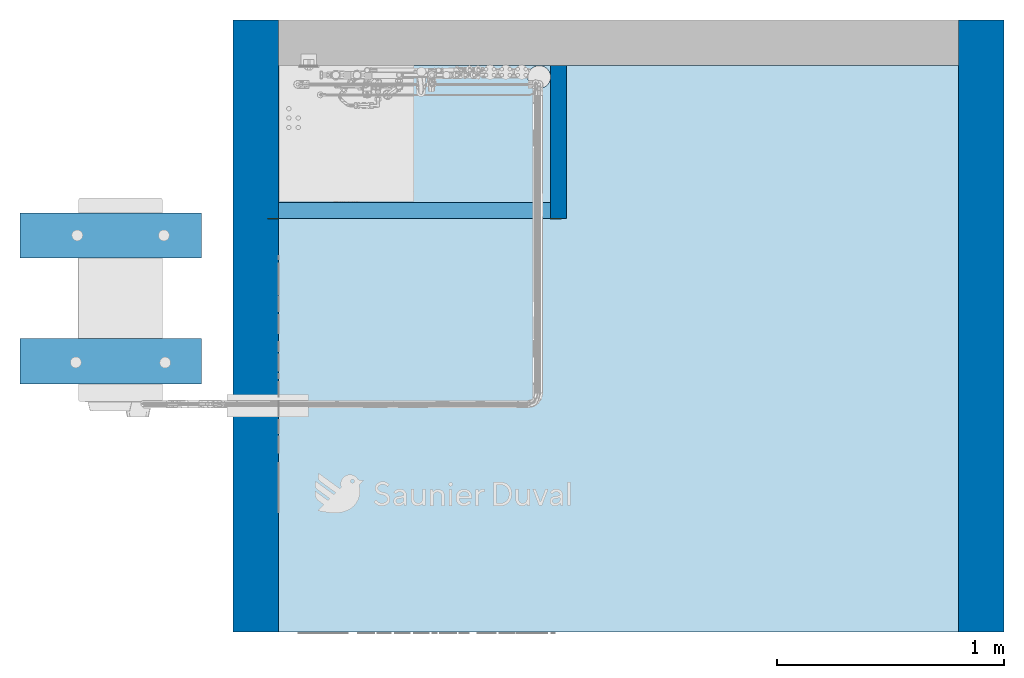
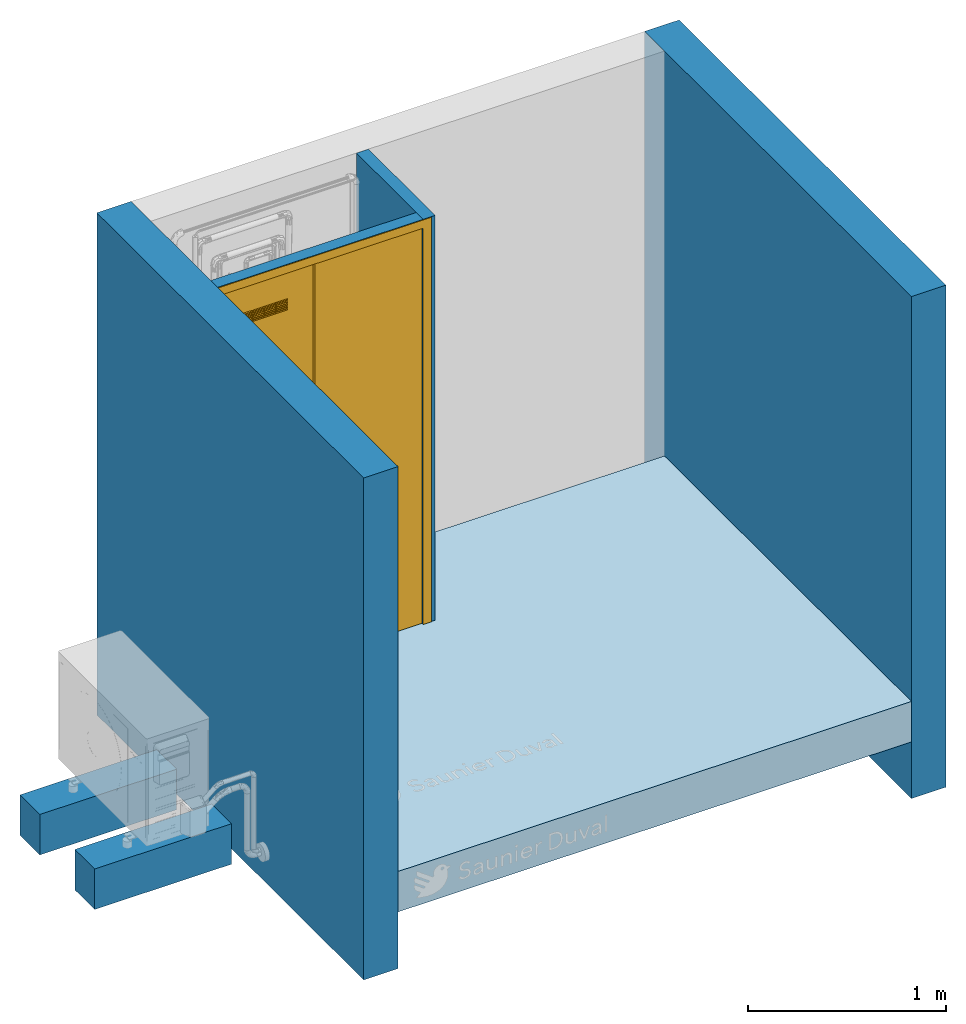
# One storey, part 1 of 32: 4 walls, 3 slabs, 1 door, 4 openings.
"""IFC2X3 building model written with IfcOpenShell, lengths in metres."""

from ifc_helpers import new_model, entity, si_unit, converted_unit, derived_unit, direction, frame, frame_2d, origin, origin_2d_with_axis, place, context, subcontext, project, spatial, polyline, rectangle, circle, outline, extrude, source, transform, mapped, material, material_list, layer, layer_set, layer_usage, type_object, type_shapes, element, fill, save


model = new_model("IFC2X3")

# Units and contexts
model_context = context("Model", 3, precision=1e-05, world=origin(), true_north=direction((6.123031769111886e-17, 1.0)))
body_context = subcontext(model_context, "Body", "Model", "MODEL_VIEW")
ifc_project = project(units=[si_unit("LENGTHUNIT", "METRE"), si_unit("AREAUNIT", "SQUARE_METRE"), si_unit("VOLUMEUNIT", "CUBIC_METRE"), converted_unit("PLANEANGLEUNIT", "DEGREE", entity("IfcPlaneAngleMeasure", 0.017453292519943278), si_unit("PLANEANGLEUNIT", "RADIAN"), dimensions=[0, 0, 0, 0, 0, 0, 0]), si_unit("MASSUNIT", "GRAM", prefix="KILO"), derived_unit("MASSDENSITYUNIT", [(si_unit("MASSUNIT", "GRAM", prefix="KILO"), 1), (si_unit("LENGTHUNIT", "METRE"), -3)]), derived_unit("IONCONCENTRATIONUNIT", [(si_unit("MASSUNIT", "GRAM", prefix="KILO"), 1), (si_unit("LENGTHUNIT", "METRE"), -3)]), derived_unit("MOMENTOFINERTIAUNIT", [(si_unit("LENGTHUNIT", "METRE"), 4)]), si_unit("TIMEUNIT", "SECOND"), si_unit("FREQUENCYUNIT", "HERTZ"), si_unit("THERMODYNAMICTEMPERATUREUNIT", "DEGREE_CELSIUS"), derived_unit("THERMALTRANSMITTANCEUNIT", [(si_unit("MASSUNIT", "GRAM", prefix="KILO"), 1), (si_unit("THERMODYNAMICTEMPERATUREUNIT", "KELVIN"), -1), (si_unit("TIMEUNIT", "SECOND"), -3)]), derived_unit("THERMALCONDUCTANCEUNIT", [(si_unit("MASSUNIT", "GRAM", prefix="KILO"), 1), (si_unit("THERMODYNAMICTEMPERATUREUNIT", "KELVIN"), -1), (si_unit("TIMEUNIT", "SECOND"), -3), (si_unit("LENGTHUNIT", "METRE"), 1)]), derived_unit("VOLUMETRICFLOWRATEUNIT", [(si_unit("LENGTHUNIT", "METRE", prefix="DECI"), 3), (si_unit("TIMEUNIT", "SECOND"), -1)]), derived_unit("MASSFLOWRATEUNIT", [(si_unit("MASSUNIT", "GRAM", prefix="KILO"), 1), (si_unit("TIMEUNIT", "SECOND"), -1)]), derived_unit("ROTATIONALFREQUENCYUNIT", [(si_unit("TIMEUNIT", "SECOND"), -1)]), si_unit("ELECTRICCURRENTUNIT", "AMPERE"), si_unit("ELECTRICVOLTAGEUNIT", "VOLT"), si_unit("POWERUNIT", "WATT"), si_unit("FORCEUNIT", "NEWTON", prefix="KILO"), si_unit("ILLUMINANCEUNIT", "LUX"), si_unit("LUMINOUSFLUXUNIT", "LUMEN"), si_unit("LUMINOUSINTENSITYUNIT", "CANDELA"), si_unit("ENERGYUNIT", "JOULE"), derived_unit("USERDEFINED", [(si_unit("MASSUNIT", "GRAM", prefix="KILO"), -1), (si_unit("LENGTHUNIT", "METRE"), -2), (si_unit("TIMEUNIT", "SECOND"), 3), (si_unit("LUMINOUSFLUXUNIT", "LUMEN"), 1)]), derived_unit("USERDEFINED", [(si_unit("MASSUNIT", "GRAM", prefix="KILO"), 1), (si_unit("TIMEUNIT", "SECOND"), -3), (si_unit("LENGTHUNIT", "METRE"), 3), (si_unit("ELECTRICCURRENTUNIT", "AMPERE"), -2)]), derived_unit("SOUNDPOWERUNIT", [(si_unit("MASSUNIT", "GRAM", prefix="KILO"), 1), (si_unit("TIMEUNIT", "SECOND"), -3), (si_unit("LENGTHUNIT", "METRE"), 2)]), derived_unit("SOUNDPRESSUREUNIT", [(si_unit("MASSUNIT", "GRAM", prefix="KILO"), 1), (si_unit("LENGTHUNIT", "METRE"), -1), (si_unit("TIMEUNIT", "SECOND"), -2)]), derived_unit("LINEARVELOCITYUNIT", [(si_unit("LENGTHUNIT", "METRE"), 1), (si_unit("TIMEUNIT", "SECOND"), -1)]), si_unit("PRESSUREUNIT", "PASCAL"), derived_unit("USERDEFINED", [(si_unit("MASSUNIT", "GRAM", prefix="KILO"), 1), (si_unit("LENGTHUNIT", "METRE"), -2), (si_unit("TIMEUNIT", "SECOND"), -2)]), derived_unit("LINEARFORCEUNIT", [(si_unit("MASSUNIT", "GRAM", prefix="KILO"), 1), (si_unit("TIMEUNIT", "SECOND"), -2)]), derived_unit("PLANARFORCEUNIT", [(si_unit("MASSUNIT", "GRAM", prefix="KILO"), 1), (si_unit("LENGTHUNIT", "METRE"), -1), (si_unit("TIMEUNIT", "SECOND"), -2)]), derived_unit("SPECIFICHEATCAPACITYUNIT", [(si_unit("THERMODYNAMICTEMPERATUREUNIT", "KELVIN"), -1), (si_unit("LENGTHUNIT", "METRE"), 2), (si_unit("TIMEUNIT", "SECOND"), -2)]), derived_unit("HEATFLUXDENSITYUNIT", [(si_unit("MASSUNIT", "GRAM", prefix="KILO"), 1), (si_unit("TIMEUNIT", "SECOND"), -3)]), derived_unit("HEATINGVALUEUNIT", [(si_unit("LENGTHUNIT", "METRE"), 2), (si_unit("TIMEUNIT", "SECOND"), -2)]), derived_unit("VAPORPERMEABILITYUNIT", [(si_unit("LENGTHUNIT", "METRE"), -1), (si_unit("TIMEUNIT", "SECOND"), 1)]), derived_unit("DYNAMICVISCOSITYUNIT", [(si_unit("MASSUNIT", "GRAM", prefix="KILO"), 1), (si_unit("TIMEUNIT", "SECOND"), -1), (si_unit("LENGTHUNIT", "METRE"), -1)]), derived_unit("THERMALEXPANSIONCOEFFICIENTUNIT", [(si_unit("THERMODYNAMICTEMPERATUREUNIT", "KELVIN"), -1)]), derived_unit("MODULUSOFELASTICITYUNIT", [(si_unit("MASSUNIT", "GRAM", prefix="KILO"), 1), (si_unit("LENGTHUNIT", "METRE"), -1), (si_unit("TIMEUNIT", "SECOND"), -2)]), derived_unit("ISOTHERMALMOISTURECAPACITYUNIT", [(si_unit("MASSUNIT", "GRAM", prefix="KILO"), -1), (si_unit("LENGTHUNIT", "METRE"), 3)]), derived_unit("MOISTUREDIFFUSIVITYUNIT", [(si_unit("TIMEUNIT", "SECOND"), -1), (si_unit("LENGTHUNIT", "METRE"), 2)]), derived_unit("MASSPERLENGTHUNIT", [(si_unit("MASSUNIT", "GRAM", prefix="KILO"), 1), (si_unit("LENGTHUNIT", "METRE"), -1)]), derived_unit("THERMALRESISTANCEUNIT", [(si_unit("MASSUNIT", "GRAM", prefix="KILO"), -1), (si_unit("TIMEUNIT", "SECOND"), 3), (si_unit("THERMODYNAMICTEMPERATUREUNIT", "KELVIN"), 1)]), derived_unit("ACCELERATIONUNIT", [(si_unit("LENGTHUNIT", "METRE"), 1), (si_unit("TIMEUNIT", "SECOND"), -2)]), derived_unit("ANGULARVELOCITYUNIT", [(si_unit("TIMEUNIT", "SECOND"), -1), (si_unit("PLANEANGLEUNIT", "RADIAN"), 1)]), derived_unit("LINEARSTIFFNESSUNIT", [(si_unit("MASSUNIT", "GRAM", prefix="KILO"), 1), (si_unit("TIMEUNIT", "SECOND"), -2)]), derived_unit("WARPINGCONSTANTUNIT", [(si_unit("LENGTHUNIT", "METRE"), 6)]), derived_unit("LINEARMOMENTUNIT", [(si_unit("MASSUNIT", "GRAM", prefix="KILO"), 1), (si_unit("LENGTHUNIT", "METRE"), 1), (si_unit("TIMEUNIT", "SECOND"), -2)]), derived_unit("TORQUEUNIT", [(si_unit("MASSUNIT", "GRAM", prefix="KILO"), 1), (si_unit("LENGTHUNIT", "METRE"), 2), (si_unit("TIMEUNIT", "SECOND"), -2)])], contexts=[model_context])

# Site, building, storey
site_placement = place(None, origin())
site = spatial("IfcSite", under=ifc_project, at=site_placement, Name="Default", CompositionType="ELEMENT")
building_placement = place(site_placement, origin())
building = spatial("IfcBuilding", under=site, at=building_placement, CompositionType="ELEMENT")
storey_placement = place(building_placement, origin())
storey = spatial("IfcBuildingStorey", under=building, at=storey_placement, Name="Niveau 0", CompositionType="ELEMENT", Elevation=-1.949160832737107e-14)

# Slab, opening
ifc_material_1 = material(Name="Maçonnerie - Béton")
ifc_layer_1 = layer(ifc_material_1, 0.24999999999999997)
ifc_layer_set_1 = layer_set([ifc_layer_1], Name="Sol:Dalle en béton - 250 mm")
ifc_layer_usage_1 = layer_usage(ifc_layer_set_1, "AXIS3", "POSITIVE", 0.0)
slab_type = type_object("IfcSlabType", Name="Sol:Dalle en béton - 250 mm", PredefinedType="FLOOR", material=ifc_layer_set_1)
slab_1_placement = place(storey_placement, frame((-14.709553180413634, 0.36902647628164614, -0.25)))
slab_1 = element("IfcSlab", 1, at=slab_1_placement, inside=storey, type_object=slab_type, material=ifc_layer_usage_1, Name="Sol:Dalle en béton - 250 mm", ObjectType="Sol:Dalle en béton - 250 mm", PredefinedType="FLOOR", context=body_context, shape_type="SweptSolid", body=[
    extrude(rectangle(XDim=2.4994999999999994, YDim=2.998999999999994, at=frame_2d((0.0, 0.0), x_axis=(0.0, 1.0))), frame((1.4995000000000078, 1.249750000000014, 0.24999999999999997), z_axis=(0.0, 0.0, -1.0), x_axis=(-1.0, 0.0, 0.0)), (0.0, 0.0, 1.0), 0.24999999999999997),
])
opening_1_placement = place(slab_1_placement, origin())
element("IfcOpeningElement", 2, at=opening_1_placement, cuts=slab_1, Name="Sol:Dalle en béton - 250 mm:634", ObjectType="Opening", context=body_context, shape_type="SweptSolid", body=[
    extrude(circle(Radius=0.04999999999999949, at=origin_2d_with_axis()), frame((1.150000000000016, 2.4489238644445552, 0.24999999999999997), z_axis=(0.0, 0.0, -1.0), x_axis=(-1.0, 0.0, 0.0)), (0.0, 0.0, 1.0), 0.24999999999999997),
])

# Slabs
ifc_layer_usage_2 = layer_usage(ifc_layer_set_1, "AXIS3", "POSITIVE", 0.0)
slab_2_placement = place(storey_placement, origin())
element("IfcSlab", 3, at=slab_2_placement, inside=storey, type_object=slab_type, material=ifc_layer_usage_2, Name="Sol:Dalle en béton - 250 mm", ObjectType="Sol:Dalle en béton - 250 mm", PredefinedType="FLOOR", context=body_context, shape_type="SweptSolid", body=[
    extrude(rectangle(XDim=0.19999999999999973, YDim=0.8, at=frame_2d((-1.3877787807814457e-16, 0.0), x_axis=(1.0, 0.0))), frame((-15.449897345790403, 2.1192559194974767, -0.24999999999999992), z_axis=(0.0, 0.0, -1.0), x_axis=(0.0, 1.0, 0.0)), (0.0, 0.0, 1.0), 0.24999999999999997),
])
ifc_layer_usage_3 = layer_usage(ifc_layer_set_1, "AXIS3", "POSITIVE", 0.0)
slab_3_placement = place(storey_placement, origin())
element("IfcSlab", 4, at=slab_3_placement, inside=storey, type_object=slab_type, material=ifc_layer_usage_3, Name="Sol:Dalle en béton - 250 mm", ObjectType="Sol:Dalle en béton - 250 mm", PredefinedType="FLOOR", context=body_context, shape_type="SweptSolid", body=[
    extrude(rectangle(XDim=0.19999999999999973, YDim=0.8, at=frame_2d((1.3877787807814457e-16, 0.0), x_axis=(1.0, 0.0))), frame((-15.44989734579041, 1.5642559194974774, -0.25), z_axis=(0.0, 0.0, -1.0), x_axis=(0.0, 1.0, 0.0)), (0.0, 0.0, 1.0), 0.25),
])

# Wall
ifc_material_2 = material(Name="Mur par défaut")
ifc_layer_2 = layer(ifc_material_2, 0.2)
ifc_material_3 = material(Name="Color RGB 255-255-255")
ifc_layer_3 = layer(ifc_material_3, 0.0009999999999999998)
ifc_layer_set_2 = layer_set([ifc_layer_2, ifc_layer_3], Name="Mur de base:Générique - Ext. 200 mm")
ifc_layer_usage_4 = layer_usage(ifc_layer_set_2, "AXIS2", "NEGATIVE", 0.1005)
wall_type_1 = type_object("IfcWallType", Name="Mur de base:Générique - Ext. 200 mm", PredefinedType="STANDARD", material=ifc_layer_set_2)
wall_1_placement = place(storey_placement, frame((-11.610053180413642, 0.36902647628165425, -0.5999999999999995), z_axis=(0.0, 0.0, 1.0), x_axis=(0.0, 1.0, 0.0)))
element("IfcWallStandardCase", 5, at=wall_1_placement, inside=storey, type_object=wall_type_1, material=ifc_layer_usage_4, Name="Mur de base:Générique - Ext. 200 mm", ObjectType="Mur de base:Générique - Ext. 200 mm", context=body_context, shape_type="SweptSolid", body=[
    extrude(rectangle(XDim=2.700500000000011, YDim=0.20100000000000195, at=frame_2d((1.3502500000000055, -1.8041124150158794e-16), x_axis=(-1.0, 0.0))), origin(), (0.0, 0.0, 1.0), 3.1000000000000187),
])

# Wall, opening
ifc_layer_usage_5 = layer_usage(ifc_layer_set_2, "AXIS2", "POSITIVE", -0.1005)
wall_2_placement = place(storey_placement, frame((-14.81005318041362, 3.0695264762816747, -0.5999999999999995), z_axis=(0.0, 0.0, 1.0), x_axis=(0.0, -1.0, 0.0)))
wall_2 = element("IfcWallStandardCase", 6, at=wall_2_placement, inside=storey, type_object=wall_type_1, material=ifc_layer_usage_5, Name="Mur de base:Générique - Ext. 200 mm", ObjectType="Mur de base:Générique - Ext. 200 mm", context=body_context, shape_type="SweptSolid", body=[
    extrude(rectangle(XDim=2.7005, YDim=0.20100000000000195, at=frame_2d((1.35025, -1.1102230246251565e-16), x_axis=(-1.0, 0.0))), origin(), (0.0, 0.0, 1.0), 3.1000000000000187),
])
opening_2_placement = place(wall_2_placement, origin())
element("IfcOpeningElement", 7, at=opening_2_placement, cuts=wall_2, Name="Mur de base:Générique - Ext. 200 mm", ObjectType="Opening", context=body_context, shape_type="SweptSolid", body=[
    extrude(rectangle(XDim=2.4499999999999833, YDim=0.07000000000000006, at=frame_2d((1.3530843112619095e-16, 0.0), x_axis=(0.0, 1.0))), frame((0.840500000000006, 0.10049999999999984, 1.8249999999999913), z_axis=(0.0, 1.0, 0.0), x_axis=(-1.0, 0.0, 0.0)), (0.0, 0.0, 1.0), 1.2000000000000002),
])

ifc_layer_4 = layer(ifc_material_2, 0.07)
ifc_layer_set_3 = layer_set([ifc_layer_4], Name="Mur de base:Générique - Int. 70 mm")
ifc_layer_usage_6 = layer_usage(ifc_layer_set_3, "AXIS2", "NEGATIVE", 0.034999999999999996)
wall_type_2 = type_object("IfcWallType", Name="Mur de base:Générique - Int. 70 mm", PredefinedType="STANDARD", material=ifc_layer_set_3)
wall_3_placement = place(storey_placement, frame((-13.474553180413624, 2.868526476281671, 0.0), z_axis=(0.0, 0.0, 1.0), x_axis=(0.0, -1.0, 0.0)))
wall_3 = element("IfcWallStandardCase", 8, at=wall_3_placement, inside=storey, type_object=wall_type_2, material=ifc_layer_usage_6, Name="Mur de base:Générique - Int. 70 mm", ObjectType="Mur de base:Générique - Int. 70 mm", context=body_context, shape_type="SweptSolid", body=[
    extrude(rectangle(XDim=0.6745000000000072, YDim=0.07000000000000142, at=frame_2d((0.3372500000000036, 4.996003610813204e-16), x_axis=(-1.0, 0.0))), origin(), (0.0, 0.0, 1.0), 2.500000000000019),
])
opening_3_placement = place(wall_3_placement, origin())
element("IfcOpeningElement", 9, at=opening_3_placement, cuts=wall_3, Name="Mur de base:Générique - Int. 70 mm", ObjectType="Opening", context=body_context, shape_type="SweptSolid", body=[
    extrude(rectangle(XDim=2.4499999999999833, YDim=0.07000000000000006, at=frame_2d((1.3530843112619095e-16, 0.0), x_axis=(0.0, 1.0))), frame((0.6395000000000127, -1.234999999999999, 1.2249999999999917), z_axis=(0.0, 1.0, 0.0), x_axis=(-1.0, 0.0, 0.0)), (0.0, 0.0, 1.0), 1.2000000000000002),
])

# Wall, opening, door
ifc_material_4 = material(Name="PVC - Blanc")
ifc_layer_5 = layer(ifc_material_4, 0.07)
ifc_layer_set_4 = layer_set([ifc_layer_5], Name="Mur de base:Int.  Platre 70 mm")
ifc_layer_usage_7 = layer_usage(ifc_layer_set_4, "AXIS2", "NEGATIVE", 0.034999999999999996)
wall_type_3 = type_object("IfcWallType", Name="Mur de base:Int.  Platre 70 mm", PredefinedType="STANDARD", material=ifc_layer_set_4)
wall_4_placement = place(storey_placement, frame((-13.509553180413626, 2.2290264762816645, 2.4499999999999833), z_axis=(0.0, 0.0, 1.0), x_axis=(-1.0, 0.0, 0.0)))
wall_4 = element("IfcWallStandardCase", 10, at=wall_4_placement, inside=storey, type_object=wall_type_3, material=ifc_layer_usage_7, Name="Mur de base:Int.  Platre 70 mm", ObjectType="Mur de base:Int.  Platre 70 mm", context=body_context, shape_type="SweptSolid", body=[
    extrude(rectangle(XDim=1.1999999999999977, YDim=0.07000000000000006, at=frame_2d((0.599999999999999, -1.9081958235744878e-16), x_axis=(1.0, 0.0))), origin(), (0.0, 0.0, 1.0), 0.05000000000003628),
])
opening_4_placement = place(wall_4_placement, frame((0.0, -0.03500000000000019, -2.450000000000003)))
opening_4 = element("IfcOpeningElement", 11, at=opening_4_placement, cuts=wall_4, Name="Placard coulissante - 2 panneaux_GM:Placard coulissante - 2 panneaux 2.50:1", ObjectType="Opening", context=body_context, shape_type="SweptSolid", body=[
    extrude(rectangle(XDim=2.4499999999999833, YDim=1.2000000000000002, at=frame_2d((1.2249999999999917, 0.6000000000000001), x_axis=(1.0, 0.0))), frame((0.0, 0.0, 0.0), z_axis=(0.0, 1.0, 0.0), x_axis=(0.0, 0.0, 1.0)), (0.0, 0.0, 1.0), 0.06999999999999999),
])
ifc_material_5 = material(Name="Plastique, blanc opaque")
ifc_material_6 = material(Name="Verre, vitrage transparent")
ifc_material_list = material_list([ifc_material_5, ifc_material_6])
door_style = type_object("IfcDoorStyle", Name="Placard coulissante - 2 panneaux_GM:Placard coulissante - 2 panneaux 2.50", ConstructionType="NOTDEFINED", OperationType="SLIDING_TO_RIGHT", ParameterTakesPrecedence=False, Sizeable=False, material=ifc_material_list)
shared_shape = source(origin(), body_context, "Body", "SweptSolid", [
    extrude(outline(polyline([(-1.2364999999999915, -0.6479999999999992), (1.2614999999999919, -0.6479999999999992), (1.2614999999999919, 0.6479999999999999), (-1.2364999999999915, 0.6479999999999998), (-1.2364999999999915, 0.5979999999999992), (1.2114999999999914, 0.5979999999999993), (1.2114999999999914, -0.597999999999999), (-1.2364999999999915, -0.5979999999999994), (-1.2364999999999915, -0.6479999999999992)])), frame((0.5999999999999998, -0.002999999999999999, 1.2364999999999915), z_axis=(0.0, 1.0, 0.0), x_axis=(0.0, 0.0, 1.0)), (0.0, 0.0, 1.0), 0.003000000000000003),
    extrude(rectangle(XDim=0.02000000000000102, YDim=0.6250000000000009, at=origin_2d_with_axis()), frame((0.8874999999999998, 0.02000000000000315, 0.0), z_axis=(0.0, 0.0, 1.0), x_axis=(0.0, 1.0, 0.0)), (0.0, 0.0, 1.0), 2.45),
    extrude(outline(polyline([(-1.225, -0.3124999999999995), (1.225, -0.3124999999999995), (1.225, 0.3124999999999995), (-1.225, 0.3124999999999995), (-1.225, -0.3124999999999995)]), holes=[polyline([(-1.027410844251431, -0.11509379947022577), (-1.0349108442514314, -0.11509379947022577), (-1.0349108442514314, -0.05009379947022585), (-1.0274108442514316, -0.05009379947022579), (-1.027410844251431, -0.11509379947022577)]), polyline([(-1.0169108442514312, -0.11509379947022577), (-1.0244108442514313, -0.11509379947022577), (-1.0244108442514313, -0.05009379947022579), (-1.016910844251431, -0.05009379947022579), (-1.0169108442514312, -0.11509379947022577)]), polyline([(-1.0064108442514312, -0.11509379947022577), (-1.0139108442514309, -0.11509379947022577), (-1.0139108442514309, -0.05009379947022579), (-1.0064108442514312, -0.05009379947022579), (-1.0064108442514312, -0.11509379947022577)]), polyline([(-0.9959108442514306, -0.11509379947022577), (-1.0034108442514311, -0.11509379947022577), (-1.0034108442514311, -0.05009379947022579), (-0.9959108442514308, -0.05009379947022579), (-0.9959108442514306, -0.11509379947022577)]), polyline([(-0.9854108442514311, -0.11509379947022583), (-0.9929108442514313, -0.11509379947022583), (-0.992910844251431, -0.05009379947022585), (-0.9854108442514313, -0.05009379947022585), (-0.9854108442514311, -0.11509379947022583)]), polyline([(-0.9749108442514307, -0.11509379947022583), (-0.982410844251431, -0.11509379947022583), (-0.982410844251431, -0.05009379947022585), (-0.9749108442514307, -0.05009379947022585), (-0.9749108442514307, -0.11509379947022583)]), polyline([(-0.9644108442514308, -0.11509379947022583), (-0.9719108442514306, -0.11509379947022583), (-0.9719108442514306, -0.05009379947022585), (-0.9644108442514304, -0.05009379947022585), (-0.9644108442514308, -0.11509379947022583)]), polyline([(-1.0274108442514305, -0.047093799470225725), (-1.034910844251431, -0.047093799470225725), (-1.0349108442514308, 0.01790620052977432), (-1.0274108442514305, 0.017906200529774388), (-1.0274108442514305, -0.047093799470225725)]), polyline([(-1.0169108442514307, -0.047093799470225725), (-1.0244108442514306, -0.047093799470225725), (-1.0244108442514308, 0.017906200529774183), (-1.0169108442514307, 0.017906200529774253), (-1.0169108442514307, -0.047093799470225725)]), polyline([(-1.006410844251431, -0.047093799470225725), (-1.013910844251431, -0.047093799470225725), (-1.013910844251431, 0.017906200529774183), (-1.0064108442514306, 0.017906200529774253), (-1.006410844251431, -0.047093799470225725)]), polyline([(-0.9959108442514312, -0.047093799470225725), (-1.0034108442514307, -0.047093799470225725), (-1.0034108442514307, 0.017906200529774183), (-0.9959108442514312, 0.017906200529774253), (-0.9959108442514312, -0.047093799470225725)]), polyline([(-0.9854108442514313, -0.047093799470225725), (-0.992910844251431, -0.047093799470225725), (-0.992910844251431, 0.017906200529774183), (-0.9854108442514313, 0.017906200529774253), (-0.9854108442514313, -0.047093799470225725)]), polyline([(-0.974910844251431, -0.047093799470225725), (-0.9824108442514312, -0.047093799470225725), (-0.9824108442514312, 0.017906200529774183), (-0.974910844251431, 0.017906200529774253), (-0.974910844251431, -0.047093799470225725)]), polyline([(-0.9644108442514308, -0.047093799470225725), (-0.9719108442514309, -0.047093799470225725), (-0.9719108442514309, 0.017906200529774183), (-0.9644108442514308, 0.017906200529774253), (-0.9644108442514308, -0.047093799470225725)]), polyline([(-1.027410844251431, 0.020906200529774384), (-1.034910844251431, 0.020906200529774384), (-1.034910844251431, 0.08590620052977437), (-1.0274108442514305, 0.08590620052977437), (-1.027410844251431, 0.020906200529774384)]), polyline([(-1.0169108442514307, 0.020906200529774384), (-1.0244108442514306, 0.020906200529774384), (-1.0244108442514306, 0.08590620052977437), (-1.016910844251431, 0.08590620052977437), (-1.0169108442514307, 0.020906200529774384)]), polyline([(-1.006410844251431, 0.02090620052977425), (-1.0139108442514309, 0.02090620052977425), (-1.0139108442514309, 0.08590620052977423), (-1.0064108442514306, 0.08590620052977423), (-1.006410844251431, 0.02090620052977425)]), polyline([(-0.9959108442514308, 0.02090620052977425), (-1.0034108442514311, 0.02090620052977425), (-1.0034108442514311, 0.08590620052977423), (-0.9959108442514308, 0.08590620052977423), (-0.9959108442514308, 0.02090620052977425)]), polyline([(-0.9854108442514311, 0.02090620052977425), (-0.992910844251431, 0.02090620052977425), (-0.992910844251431, 0.08590620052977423), (-0.9854108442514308, 0.08590620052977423), (-0.9854108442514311, 0.02090620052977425)]), polyline([(-0.9749108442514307, 0.02090620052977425), (-0.982410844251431, 0.02090620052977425), (-0.982410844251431, 0.08590620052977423), (-0.9749108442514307, 0.08590620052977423), (-0.9749108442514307, 0.02090620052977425)]), polyline([(-0.964410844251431, 0.02090620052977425), (-0.9719108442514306, 0.02090620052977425), (-0.9719108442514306, 0.08590620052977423), (-0.9644108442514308, 0.08590620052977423), (-0.964410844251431, 0.02090620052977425)]), polyline([(-1.027410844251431, 0.08890620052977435), (-1.0349108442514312, 0.08890620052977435), (-1.0349108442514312, 0.15390620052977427), (-1.027410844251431, 0.15390620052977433), (-1.027410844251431, 0.08890620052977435)]), polyline([(-1.0169108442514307, 0.08890620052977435), (-1.0244108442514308, 0.08890620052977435), (-1.0244108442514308, 0.15390620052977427), (-1.0169108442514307, 0.15390620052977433), (-1.0169108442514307, 0.08890620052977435)]), polyline([(-1.0064108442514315, 0.08890620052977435), (-1.0139108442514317, 0.08890620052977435), (-1.0139108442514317, 0.15390620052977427), (-1.0064108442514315, 0.15390620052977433), (-1.0064108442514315, 0.08890620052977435)]), polyline([(-0.9959108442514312, 0.08890620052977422), (-1.0034108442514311, 0.08890620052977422), (-1.0034108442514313, 0.1539062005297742), (-0.9959108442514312, 0.1539062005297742), (-0.9959108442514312, 0.08890620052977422)]), polyline([(-0.9854108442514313, 0.08890620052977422), (-0.992910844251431, 0.08890620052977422), (-0.992910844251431, 0.1539062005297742), (-0.9854108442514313, 0.1539062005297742), (-0.9854108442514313, 0.08890620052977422)]), polyline([(-0.974910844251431, 0.08890620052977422), (-0.982410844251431, 0.08890620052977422), (-0.9824108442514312, 0.1539062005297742), (-0.974910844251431, 0.1539062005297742), (-0.974910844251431, 0.08890620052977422)]), polyline([(-0.9644108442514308, 0.08890620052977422), (-0.9719108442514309, 0.08890620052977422), (-0.9719108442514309, 0.1539062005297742), (-0.9644108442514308, 0.1539062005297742), (-0.9644108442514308, 0.08890620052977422)]), polyline([(1.0619999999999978, -0.1150937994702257), (1.054499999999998, -0.1150937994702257), (1.054499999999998, -0.05009379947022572), (1.0619999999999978, -0.05009379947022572), (1.0619999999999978, -0.1150937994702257)]), polyline([(1.0724999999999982, -0.1150937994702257), (1.0649999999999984, -0.1150937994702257), (1.0649999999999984, -0.05009379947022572), (1.0724999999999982, -0.05009379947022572), (1.0724999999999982, -0.1150937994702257)]), polyline([(1.0829999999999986, -0.1150937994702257), (1.0754999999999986, -0.1150937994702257), (1.0754999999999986, -0.05009379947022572), (1.0829999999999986, -0.05009379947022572), (1.0829999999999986, -0.1150937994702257)]), polyline([(1.0934999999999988, -0.1150937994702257), (1.085999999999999, -0.1150937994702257), (1.085999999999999, -0.05009379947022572), (1.0934999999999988, -0.05009379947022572), (1.0934999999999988, -0.1150937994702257)]), polyline([(1.1039999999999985, -0.11509379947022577), (1.0964999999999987, -0.11509379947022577), (1.0964999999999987, -0.05009379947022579), (1.1039999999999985, -0.05009379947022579), (1.1039999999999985, -0.11509379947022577)]), polyline([(1.114499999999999, -0.11509379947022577), (1.1069999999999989, -0.11509379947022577), (1.1069999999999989, -0.05009379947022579), (1.114499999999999, -0.05009379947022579), (1.114499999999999, -0.11509379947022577)]), polyline([(1.1249999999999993, -0.1151783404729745), (1.117499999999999, -0.1151783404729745), (1.117499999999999, -0.05009379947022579), (1.1249999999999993, -0.05009379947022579), (1.1249999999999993, -0.1151783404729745)]), polyline([(1.062, -0.047093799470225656), (1.0544999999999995, -0.047093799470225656), (1.0544999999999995, 0.01790620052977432), (1.062, 0.017906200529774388), (1.062, -0.047093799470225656)]), polyline([(1.0724999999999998, -0.047093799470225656), (1.0649999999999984, -0.047093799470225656), (1.0649999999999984, 0.01790620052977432), (1.0724999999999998, 0.017906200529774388), (1.0724999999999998, -0.047093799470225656)]), polyline([(1.0829999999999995, -0.047093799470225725), (1.0754999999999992, -0.047093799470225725), (1.0754999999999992, 0.01790620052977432), (1.0829999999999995, 0.017906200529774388), (1.0829999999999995, -0.047093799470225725)]), polyline([(1.0934999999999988, -0.047093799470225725), (1.085999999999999, -0.047093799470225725), (1.085999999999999, 0.01790620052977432), (1.0934999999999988, 0.017906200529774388), (1.0934999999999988, -0.047093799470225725)]), polyline([(1.103999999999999, -0.047093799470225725), (1.0964999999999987, -0.047093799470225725), (1.0964999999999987, 0.01790620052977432), (1.103999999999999, 0.017906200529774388), (1.103999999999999, -0.047093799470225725)]), polyline([(1.1144999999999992, -0.047093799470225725), (1.106999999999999, -0.047093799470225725), (1.106999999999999, 0.017906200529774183), (1.1144999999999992, 0.017906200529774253), (1.1144999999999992, -0.047093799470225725)]), polyline([(1.1249999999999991, -0.047093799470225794), (1.117499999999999, -0.047093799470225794), (1.117499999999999, 0.017906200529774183), (1.1249999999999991, 0.017906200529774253), (1.1249999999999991, -0.047093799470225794)]), polyline([(1.0619999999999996, 0.020906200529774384), (1.0545000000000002, 0.020906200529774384), (1.0545000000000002, 0.08590620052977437), (1.0619999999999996, 0.08590620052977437), (1.0619999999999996, 0.020906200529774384)]), polyline([(1.0724999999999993, 0.020906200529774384), (1.065, 0.020906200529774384), (1.065, 0.08590620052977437), (1.0724999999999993, 0.08590620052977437), (1.0724999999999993, 0.020906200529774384)]), polyline([(1.082999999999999, 0.020906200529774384), (1.0754999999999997, 0.020906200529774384), (1.0754999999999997, 0.08590620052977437), (1.082999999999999, 0.08590620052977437), (1.082999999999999, 0.020906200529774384)]), polyline([(1.0934999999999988, 0.020906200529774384), (1.085999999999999, 0.020906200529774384), (1.085999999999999, 0.08590620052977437), (1.0934999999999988, 0.08590620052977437), (1.0934999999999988, 0.020906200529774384)]), polyline([(1.1039999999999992, 0.020906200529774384), (1.0964999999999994, 0.020906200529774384), (1.0964999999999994, 0.08590620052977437), (1.1039999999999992, 0.08590620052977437), (1.1039999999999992, 0.020906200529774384)]), polyline([(1.114499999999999, 0.020906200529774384), (1.1069999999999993, 0.020906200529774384), (1.1069999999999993, 0.08590620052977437), (1.114499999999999, 0.08590620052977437), (1.114499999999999, 0.020906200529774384)]), polyline([(1.1249999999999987, 0.020906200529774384), (1.117499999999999, 0.020906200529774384), (1.117499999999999, 0.08590620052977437), (1.1249999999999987, 0.08590620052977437), (1.1249999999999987, 0.020906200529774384)]), polyline([(1.0619999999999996, 0.08890620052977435), (1.054499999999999, 0.08890620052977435), (1.054499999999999, 0.15390620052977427), (1.0619999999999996, 0.15390620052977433), (1.0619999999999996, 0.08890620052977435)]), polyline([(1.0724999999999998, 0.08890620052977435), (1.0649999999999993, 0.08890620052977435), (1.0649999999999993, 0.15390620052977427), (1.0724999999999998, 0.15390620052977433), (1.0724999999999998, 0.08890620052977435)]), polyline([(1.082999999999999, 0.08890620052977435), (1.0754999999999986, 0.08890620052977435), (1.0754999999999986, 0.15390620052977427), (1.082999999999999, 0.15390620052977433), (1.082999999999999, 0.08890620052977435)]), polyline([(1.0934999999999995, 0.08890620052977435), (1.085999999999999, 0.08890620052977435), (1.085999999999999, 0.15390620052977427), (1.0934999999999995, 0.15390620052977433), (1.0934999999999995, 0.08890620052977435)]), polyline([(1.1039999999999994, 0.08890620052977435), (1.0964999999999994, 0.08890620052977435), (1.0964999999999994, 0.15390620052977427), (1.1039999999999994, 0.15390620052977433), (1.1039999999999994, 0.08890620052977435)]), polyline([(1.1144999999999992, 0.08890620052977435), (1.1069999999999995, 0.08890620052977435), (1.1069999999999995, 0.15390620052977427), (1.1144999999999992, 0.15390620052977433), (1.1144999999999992, 0.08890620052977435)]), polyline([(1.1249999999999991, 0.08890620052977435), (1.117499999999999, 0.08890620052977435), (1.117499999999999, 0.15390620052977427), (1.1249999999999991, 0.15390620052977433), (1.1249999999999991, 0.08890620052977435)])]), frame((0.3124999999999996, 0.03500000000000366, 1.225), z_axis=(0.0, 1.0, 0.0), x_axis=(0.0, 0.0, -1.0)), (0.0, 0.0, 1.0), 0.019999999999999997),
])
type_shapes(door_style, [shared_shape])
door_placement = place(opening_4_placement, frame((1.200000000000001, 0.06999999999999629, 0.0), z_axis=(0.0, 0.0, 1.0), x_axis=(-1.0, 0.0, 0.0)))
door = element("IfcDoor", 12, at=door_placement, inside=storey, type_object=door_style, material=ifc_material_list, Name="Placard coulissante - 2 panneaux_GM:Placard coulissante - 2 panneaux 2.50", ObjectType="Placard coulissante - 2 panneaux_GM:Placard coulissante - 2 panneaux 2.50", OverallHeight=2.4499999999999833, OverallWidth=1.2000000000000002, context=body_context, shape_type="MappedRepresentation", body=[
    mapped(shared_shape, transform((0.0, 0.0, 0.0), scale=1.0)),
])
fill(opening_4, door)

save(model, "model.ifc")
